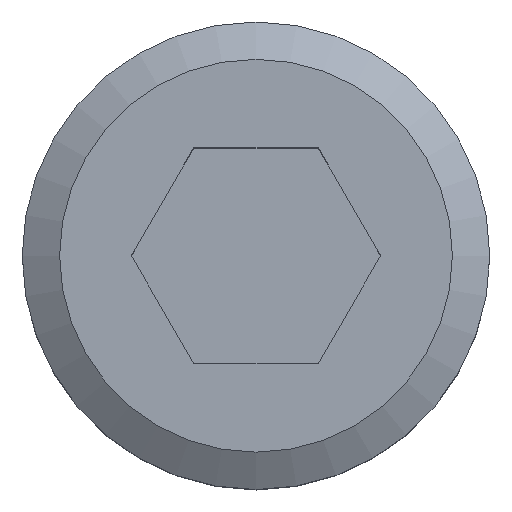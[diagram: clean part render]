
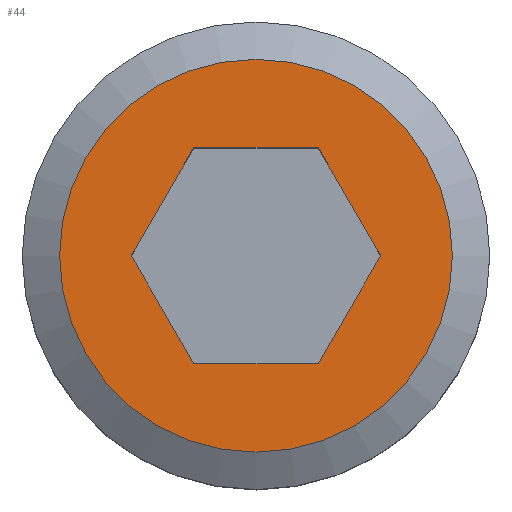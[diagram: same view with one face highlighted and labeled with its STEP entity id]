
A CAD part, top view. The second image highlights one B-rep face of the part: STEP entity #44.
In plain terms, the highlighted planar face has unit normal (0, 0, 1).
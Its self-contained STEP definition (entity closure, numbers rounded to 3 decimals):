
#44=ADVANCED_FACE('',(#95,#96),#97,.T.);
#95=FACE_OUTER_BOUND('',#150,.T.);
#96=FACE_BOUND('',#151,.T.);
#97=PLANE('',#152);
#150=EDGE_LOOP('',(#205));
#151=EDGE_LOOP('',(#206,#207,#208,#209,#210,#211));
#152=AXIS2_PLACEMENT_3D('',#212,#213,#214);
#205=ORIENTED_EDGE('',*,*,#298,.F.);
#206=ORIENTED_EDGE('',*,*,#299,.T.);
#207=ORIENTED_EDGE('',*,*,#300,.T.);
#208=ORIENTED_EDGE('',*,*,#301,.T.);
#209=ORIENTED_EDGE('',*,*,#302,.T.);
#210=ORIENTED_EDGE('',*,*,#303,.T.);
#211=ORIENTED_EDGE('',*,*,#304,.T.);
#212=CARTESIAN_POINT('',(2.73,0.,0.));
#213=DIRECTION('',(0.0,0.,1.0));
#214=DIRECTION('',(0.0,-1.0,0.));
#298=EDGE_CURVE('',#340,#340,#341,.T.);
#299=EDGE_CURVE('',#342,#343,#344,.T.);
#300=EDGE_CURVE('',#343,#345,#346,.T.);
#301=EDGE_CURVE('',#345,#347,#348,.T.);
#302=EDGE_CURVE('',#347,#349,#350,.T.);
#303=EDGE_CURVE('',#349,#351,#352,.T.);
#304=EDGE_CURVE('',#351,#342,#353,.T.);
#340=VERTEX_POINT('',#396);
#341=CIRCLE('',#397,2.73);
#342=VERTEX_POINT('',#398);
#343=VERTEX_POINT('',#399);
#344=LINE('',#400,#401);
#345=VERTEX_POINT('',#402);
#346=LINE('',#403,#404);
#347=VERTEX_POINT('',#405);
#348=LINE('',#406,#407);
#349=VERTEX_POINT('',#408);
#350=LINE('',#409,#410);
#351=VERTEX_POINT('',#411);
#352=LINE('',#412,#413);
#353=LINE('',#414,#415);
#396=CARTESIAN_POINT('',(0.,2.73,0.));
#397=AXIS2_PLACEMENT_3D('',#470,#471,#472);
#398=CARTESIAN_POINT('',(-0.866,1.5,0.));
#399=CARTESIAN_POINT('',(0.866,1.5,0.));
#400=CARTESIAN_POINT('',(-0.866,1.5,0.));
#401=VECTOR('',#473,1.0);
#402=CARTESIAN_POINT('',(1.732,0.,0.));
#403=CARTESIAN_POINT('',(0.866,1.5,0.));
#404=VECTOR('',#474,1.0);
#405=CARTESIAN_POINT('',(0.866,-1.5,0.));
#406=CARTESIAN_POINT('',(1.732,0.,0.));
#407=VECTOR('',#475,1.0);
#408=CARTESIAN_POINT('',(-0.866,-1.5,0.));
#409=CARTESIAN_POINT('',(0.866,-1.5,0.));
#410=VECTOR('',#476,1.0);
#411=CARTESIAN_POINT('',(-1.732,0.,0.));
#412=CARTESIAN_POINT('',(-0.866,-1.5,0.));
#413=VECTOR('',#477,1.0);
#414=CARTESIAN_POINT('',(-1.732,0.,0.));
#415=VECTOR('',#478,1.0);
#470=CARTESIAN_POINT('',(0.,0.,0.));
#471=DIRECTION('',(0.0,0.,-1.0));
#472=DIRECTION('',(0.0,1.0,0.));
#473=DIRECTION('',(1.0,0.,0.0));
#474=DIRECTION('',(0.5,-0.866,0.0));
#475=DIRECTION('',(-0.5,-0.866,0.0));
#476=DIRECTION('',(-1.0,0.0,0.0));
#477=DIRECTION('',(-0.5,0.866,0.0));
#478=DIRECTION('',(0.5,0.866,0.0));
